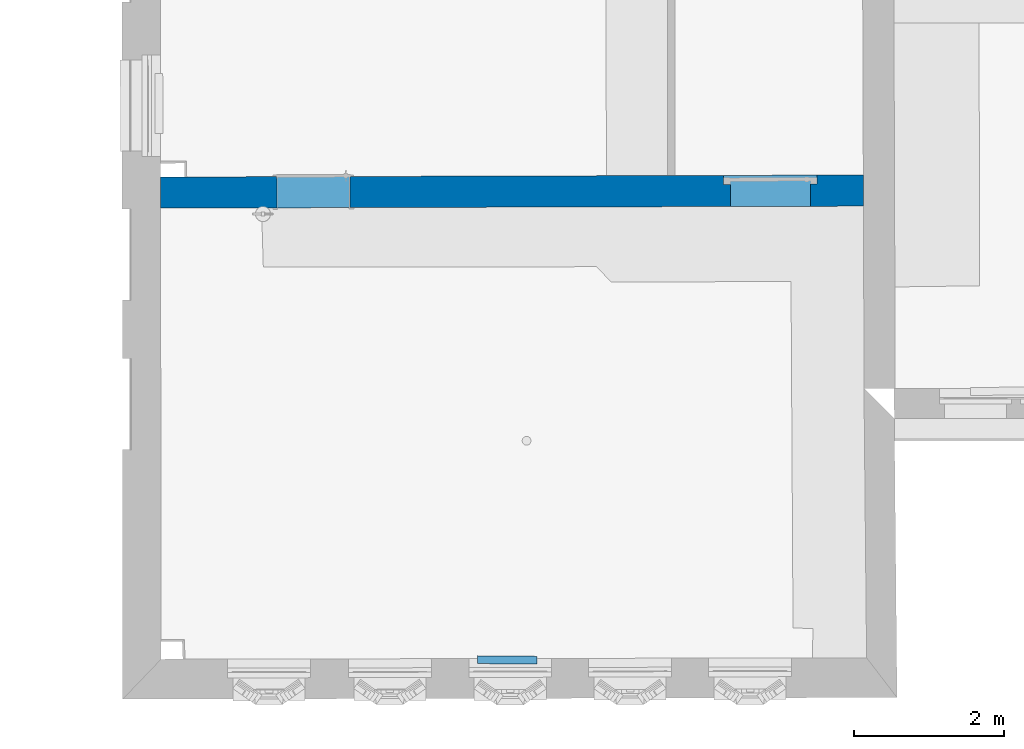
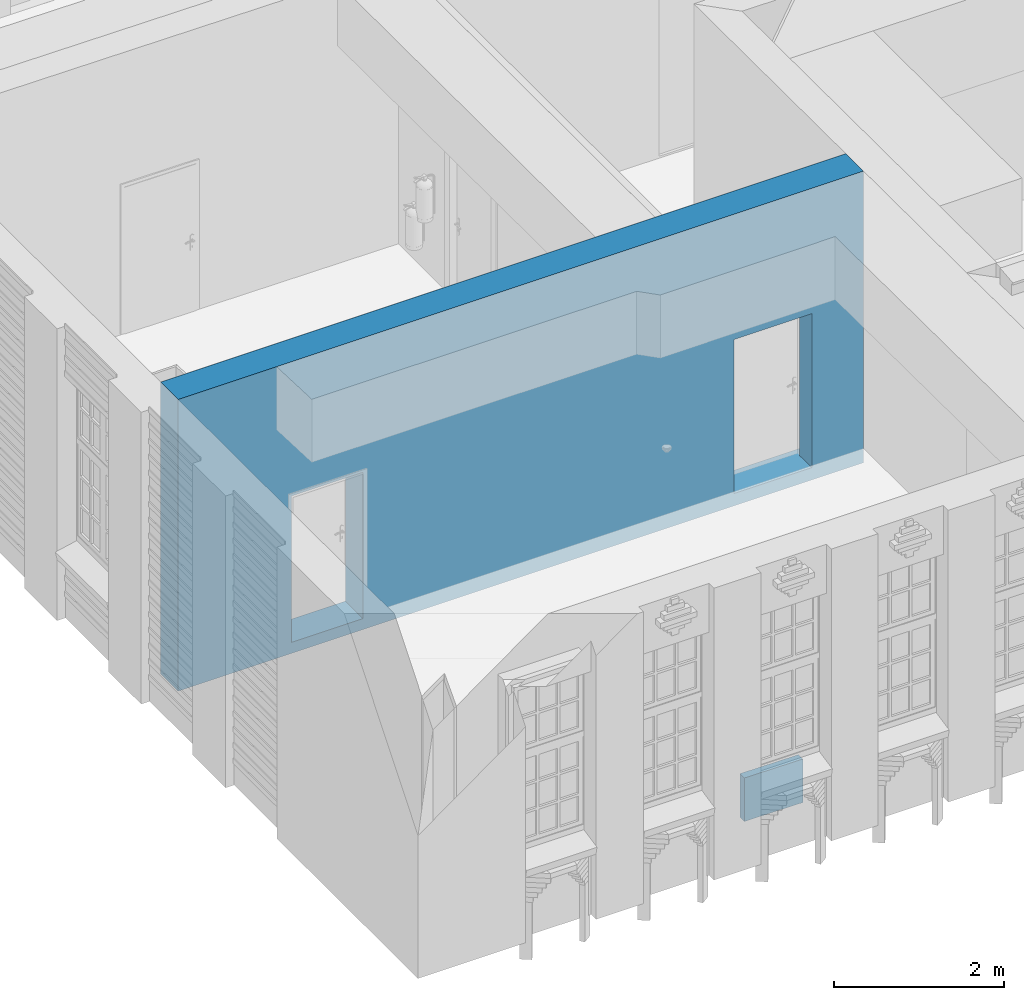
# One storey, part 9 of 90: 2 walls, 2 openings.
"""IFC2X3 building model written with IfcOpenShell, lengths in metres."""

from ifc_helpers import new_model, entity, si_unit, converted_unit, derived_unit, money_unit, direction, frame, origin_with_axes, origin_2d_with_axis, place, context, subcontext, project, spatial, polyline, rectangle, outline, extrude, material, layer, layer_set, layer_usage, type_object, element, save


model = new_model("IFC2X3")

# Units and contexts
model_context = context("Model", 3, precision=1e-05, world=origin_with_axes(), true_north=direction((0.0, 1.0)))
body_context = subcontext(model_context, "Body", "Model", "MODEL_VIEW")
ifc_project = project(units=[si_unit("LENGTHUNIT", "METRE"), si_unit("AREAUNIT", "SQUARE_METRE"), si_unit("VOLUMEUNIT", "CUBIC_METRE"), converted_unit("PLANEANGLEUNIT", "DEGREE", entity("IfcPlaneAngleMeasure", 0.0174532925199), si_unit("PLANEANGLEUNIT", "RADIAN"), dimensions=[0, 0, 0, 0, 0, 0, 0]), money_unit("EUR"), converted_unit("TIMEUNIT", "Year", entity("IfcTimeMeasure", 31556926.0), si_unit("TIMEUNIT", "SECOND"), dimensions=[0, 0, 1, 0, 0, 0, 0]), si_unit("MASSUNIT", "GRAM", prefix="KILO"), si_unit("THERMODYNAMICTEMPERATUREUNIT", "DEGREE_CELSIUS"), si_unit("LUMINOUSINTENSITYUNIT", "LUMEN"), si_unit("ENERGYUNIT", "JOULE", prefix="MEGA"), derived_unit("THERMALCONDUCTANCEUNIT", [(si_unit("POWERUNIT", "WATT"), 1), (si_unit("LENGTHUNIT", "METRE"), -1), (si_unit("THERMODYNAMICTEMPERATUREUNIT", "KELVIN"), -1)]), derived_unit("SPECIFICHEATCAPACITYUNIT", [(si_unit("ENERGYUNIT", "JOULE"), 1), (si_unit("MASSUNIT", "GRAM", prefix="KILO"), -1), (si_unit("THERMODYNAMICTEMPERATUREUNIT", "KELVIN"), -1)]), derived_unit("MASSDENSITYUNIT", [(si_unit("MASSUNIT", "GRAM", prefix="KILO"), 1), (si_unit("VOLUMEUNIT", "CUBIC_METRE"), -1)])], contexts=[model_context])

# Site, building, storey
site_placement = place(None, origin_with_axes())
site = spatial("IfcSite", under=ifc_project, at=site_placement, Name="Gelände", CompositionType="ELEMENT")
building_placement = place(site_placement, origin_with_axes())
building = spatial("IfcBuilding", under=site, at=building_placement, Name="Gebäude", CompositionType="ELEMENT")
storey_placement = place(building_placement, frame((0.0, 0.0, 3.7), z_axis=(0.0, 0.0, 1.0), x_axis=(1.0, 0.0, 0.0)))
storey = spatial("IfcBuildingStorey", under=building, at=storey_placement, Name="1.OBERGESCHOSS", CompositionType="ELEMENT", Elevation=3.7)

# Wall
ifc_material_1 = material(Name="01_ALLGEMEIN - BAUTEIL")
ifc_layer_1 = layer(ifc_material_1, 0.105, ventilated="UNKNOWN")
ifc_layer_set_1 = layer_set([ifc_layer_1], Name="01_ALLGEMEIN - BAUTEIL 0.105")
ifc_layer_usage_1 = layer_usage(ifc_layer_set_1, "AXIS2", "NEGATIVE", 0.105)
wall_type_1 = type_object("IfcWallType", Name="01_ALLGEMEIN - BAUTEIL 105", PredefinedType="ELEMENTEDWALL")
wall_1_placement = place(storey_placement, frame((-22.5404867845, 6.83094350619, 0.222143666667), z_axis=(0.0, 0.0, 1.0), x_axis=(-0.99996078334, 0.00885617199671, 0.0)))
element("IfcWallStandardCase", 1, at=wall_1_placement, inside=storey, type_object=wall_type_1, material=ifc_layer_usage_1, Name="Wand-035", ObjectType="ELEMENTEDWALL", context=body_context, shape_type="SweptSolid", body=[
    extrude(outline(polyline([(0.0, 0.0), (0.793216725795, 0.0), (0.793216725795, 0.105), (0.0, 0.105), (0.0, 0.0)])), origin_with_axes(), (0.0, 0.0, 1.0), 0.626381),
])

# Wall, openings
ifc_material_2 = material(Name="05_ALLGEMEIN - TRAGENDE BAUTEILE")
ifc_layer_2 = layer(ifc_material_2, 0.414615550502, ventilated="UNKNOWN")
ifc_layer_set_2 = layer_set([ifc_layer_2], Name="05_ALLGEMEIN - TRAGENDE BAUTEILE 0.414616")
ifc_layer_usage_2 = layer_usage(ifc_layer_set_2, "AXIS2", "NEGATIVE", 0.414615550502)
wall_type_2 = type_object("IfcWallType", Name="05_ALLGEMEIN - TRAGENDE BAUTEILE 415", PredefinedType="ELEMENTEDWALL")
wall_2_placement = place(storey_placement, frame((-17.7890752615, 13.2307990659, -0.1), z_axis=(0.0, 0.0, 1.0), x_axis=(-0.999995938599, -0.00285005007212, 0.0)))
wall_2 = element("IfcWallStandardCase", 2, at=wall_2_placement, inside=storey, type_object=wall_type_2, material=ifc_layer_usage_2, Name="Wand-040", ObjectType="ELEMENTEDWALL", context=body_context, shape_type="SweptSolid", body=[
    extrude(outline(polyline([(0.414615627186, 0.0), (9.75770503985, 0.0), (9.75849940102, 0.414615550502), (0.414363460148, 0.414615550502), (0.414615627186, 0.0)])), origin_with_axes(), (0.0, 0.0, 1.0), 4.2),
])
opening_1_placement = place(wall_2_placement, frame((1.65017157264, 0.0, 0.177598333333), z_axis=(0.0, 0.0, 1.0), x_axis=(1.0, 0.0, 0.0)))
element("IfcOpeningElement", 3, at=opening_1_placement, cuts=wall_2, Name="Tür-022", context=body_context, shape_type="SweptSolid", body=[
    extrude(rectangle(XDim=1.06465358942, YDim=2.217251, at=origin_2d_with_axis()), frame((0.0, 0.12, 1.1086255), z_axis=(0.0, 1.0, 0.0), x_axis=(1.0, 0.0, 0.0)), (0.0, 0.0, 1.0), 0.709231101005),
    extrude(rectangle(XDim=1.24465358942, YDim=2.307251, at=origin_2d_with_axis()), frame((0.0, 0.03, 1.1536255), z_axis=(0.0, -1.0, 0.0), x_axis=(1.0, 0.0, 0.0)), (0.0, 0.0, -1.0), 0.09),
    extrude(rectangle(XDim=1.24465358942, YDim=2.307251, at=origin_2d_with_axis()), frame((0.0, 0.03, 1.1536255), z_axis=(0.0, -1.0, 0.0), x_axis=(1.0, 0.0, 0.0)), (0.0, 0.0, 1.0), 0.444615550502),
])
opening_2_placement = place(wall_2_placement, frame((7.72627284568, 0.0, 0.158821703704), z_axis=(0.0, 0.0, 1.0), x_axis=(1.0, 0.0, 0.0)))
element("IfcOpeningElement", 4, at=opening_2_placement, cuts=wall_2, Name="Tür-022", context=body_context, shape_type="SweptSolid", body=[
    extrude(rectangle(XDim=0.973792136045, YDim=2.105451, at=origin_2d_with_axis()), frame((0.0, 0.414615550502, 1.0527255), z_axis=(0.0, 1.0, 0.0), x_axis=(1.0, 0.0, 0.0)), (0.0, 0.0, -1.0), 1.24384665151),
])

save(model, "model.ifc")
